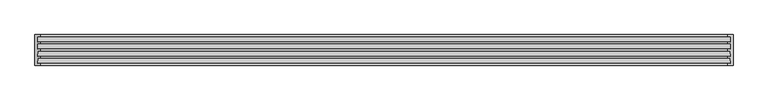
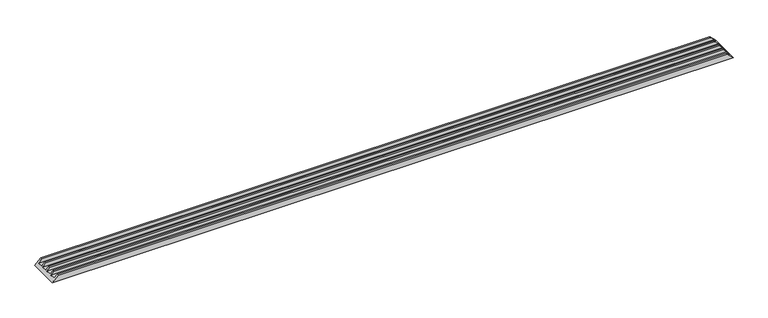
"""IFC4 building model written with IfcOpenShell, lengths in millimetres: proxy geometry, Weiku - Montante - Caixilho quíntuplo 02.2.01.003-003 refilado : Weiku - Montante - Caixilho quíntuplo 02.2.01.003-003 refilado."""

from ifc_helpers import new_model, si_unit, origin, place, context, project, spatial, faceted_brep, source, transform, mapped, element, save


def generic_models_1e8fb4b0(model_context):
    return source(origin(), model_context, "Body", "Brep", [
        faceted_brep([(-2971.0, 139.0, 26.0), (-2945.0, 139.0, 52.0), (2945.0, 139.0, 52.0), (2971.0, 139.0, 26.0), (-2973.2229744, 186.0, 23.7770256), (2973.2229744, 186.0, 23.7770256), (-2945.0, 186.0, 52.0), (2945.0, 186.0, 52.0), (-2945.0, 201.0, 52.0), (2945.0, 201.0, 52.0), (-2997.0, 263.0, 0.0), (2997.0, 263.0, 0.0), (2997.0, 0.0, 0.0), (-2997.0, 0.0, 0.0), (-2945.0, 124.0, 52.0), (2945.0, 124.0, 52.0), (-2971.0, 201.0, 26.0), (2971.0, 201.0, 26.0), (-2973.2229744, 248.0, 23.7770256), (2973.2229744, 248.0, 23.7770256), (-2945.0, 248.0, 52.0), (2945.0, 248.0, 52.0), (-2945.0, 263.0, 52.0), (2945.0, 263.0, 52.0), (2945.0, 0.0, 52.0), (-2945.0, 0.0, 52.0), (-2973.2229744, 124.0, 23.7770256), (2973.2229744, 124.0, 23.7770256), (-2945.0, 15.0, 52.0), (-2971.0, 15.0, 26.0), (-2973.2229744, 62.0, 23.7770256), (-2945.0, 62.0, 52.0), (-2945.0, 77.0, 52.0), (-2971.0, 77.0, 26.0), (2971.0, 77.0, 26.0), (2945.0, 77.0, 52.0), (2945.0, 62.0, 52.0), (2973.2229744, 62.0, 23.7770256), (2971.0, 15.0, 26.0), (2945.0, 15.0, 52.0)], [[[0, 1, 2, 3]], [[4, 0, 3, 5]], [[6, 4, 5, 7]], [[8, 6, 7, 9]], [[10, 11, 12, 13]], [[1, 14, 15, 2]], [[16, 8, 9, 17]], [[18, 16, 17, 19]], [[20, 18, 19, 21]], [[22, 20, 21, 23]], [[11, 10, 22, 23]], [[13, 12, 24, 25]], [[14, 26, 27, 15]], [[1, 0, 4, 6, 8, 16, 18, 20, 22, 10, 13, 25, 28, 29, 30, 31, 32, 33, 26, 14]], [[3, 2, 15, 27, 34, 35, 36, 37, 38, 39, 24, 12, 11, 23, 21, 19, 17, 9, 7, 5]], [[28, 25, 24, 39]], [[29, 28, 39, 38]], [[30, 29, 38, 37]], [[31, 30, 37, 36]], [[32, 31, 36, 35]], [[33, 32, 35, 34]], [[26, 33, 34, 27]]]),
    ])


if __name__ == "__main__":
    model = new_model("IFC4")
    model_context = context("Model", 3, world=origin())
    ifc_project = project(units=[si_unit("LENGTHUNIT", "METRE", prefix="MILLI")], contexts=[model_context])
    site = spatial("IfcSite", under=ifc_project)
    building = spatial("IfcBuilding", under=site)
    placement = place(None, origin())
    generic_models_shape = generic_models_1e8fb4b0(model_context)
    element("IfcBuildingElementProxy", 1, Name="Weiku - Montante - Caixilho quíntuplo 02.2.01.003-003 refilado : Weiku - Montante - Caixilho quíntuplo 02.2.01.003-003 refilado", ObjectType="Weiku - Montante - Caixilho quíntuplo 02.2.01.003-003 refilado : Weiku - Montante - Caixilho quíntuplo 02.2.01.003-003 refilado", at=placement, inside=building, context=model_context, shape_type="MappedRepresentation", body=[
        mapped(generic_models_shape, transform((0.0, 0.0, 0.0), x_axis=(1.0, 0.0, 0.0), y_axis=(0.0, 1.0, 0.0), z_axis=(0.0, 0.0, 1.0))),
    ])
    save(model, "model.ifc")
